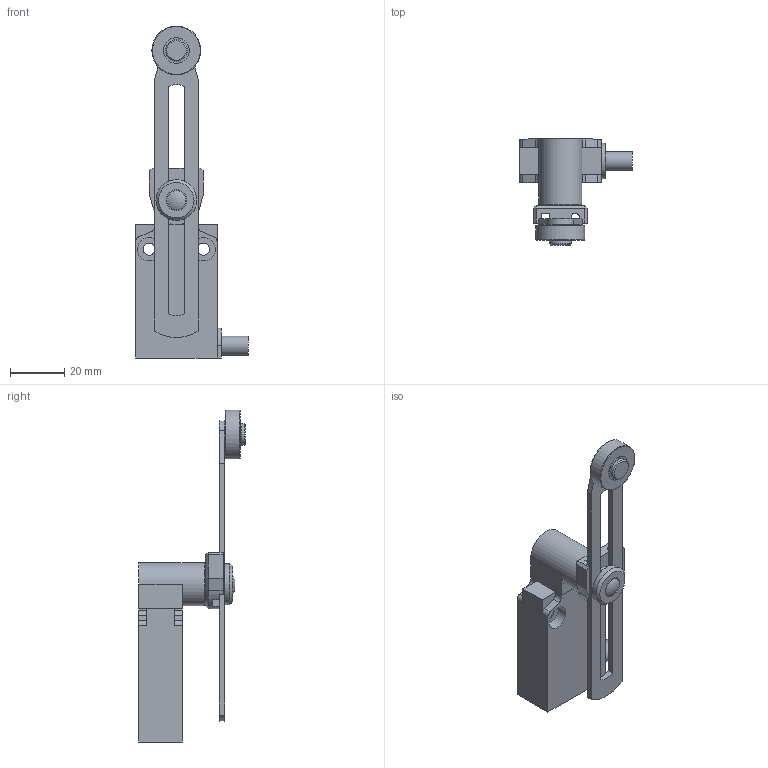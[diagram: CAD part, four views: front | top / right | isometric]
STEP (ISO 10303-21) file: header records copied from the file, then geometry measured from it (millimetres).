
FILE_DESCRIPTION(/* description */ (''),/* implementation_level */ '2;1');
FILE_NAME(/* name */ 'I49AV_side CABLE.stp',/* time_stamp */ '2024-11-20T09:36:36+01:00',/* author */ ('servizio.tecnico'),/* organization */ (''),/* preprocessor_version */ 'ST-DEVELOPER v19.2',/* originating_system */ 'Autodesk Inventor 2024',/* authorisation */ '');
FILE_SCHEMA (('AUTOMOTIVE_DESIGN { 1 0 10303 214 3 1 1 }'));
Length unit declared in the file: millimetre
Products named in the file (3): EP1G51; Product; fu 4120
Assembly tree (2 placements, depth 2):
  EP1G51
    Product
    fu 4120
Bounding box: 41.5 x 39.1 x 122 mm (x, y, z)
Volume: 33232.3 mm3; surface area: 14396.4 mm2
Topology: 5 solids, 5 shells, 146 faces, 341 edges, 223 vertices
Faces by surface type: plane 97, cylinder 42, torus 3, cone 3, sphere 1
Full cylindrical faces by diameter (mm): 4.4 x2, 5 x1, 6 x2, 7 x2, 7.6 x1, 8 x1, 8.7 x4, 9.5 x2, 11 x1, 15 x1, 15.8 x1, 18 x1
Entity records: 4355 total; most frequent: DIRECTION 741, CARTESIAN_POINT 734, ORIENTED_EDGE 682, EDGE_CURVE 341, AXIS2_PLACEMENT_3D 250, LINE 241, VECTOR 241, VERTEX_POINT 223
